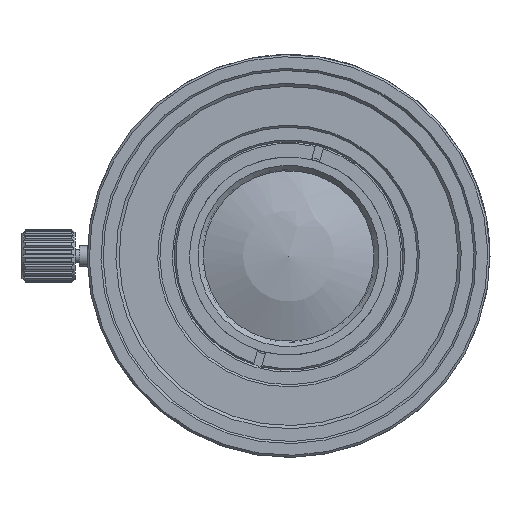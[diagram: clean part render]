
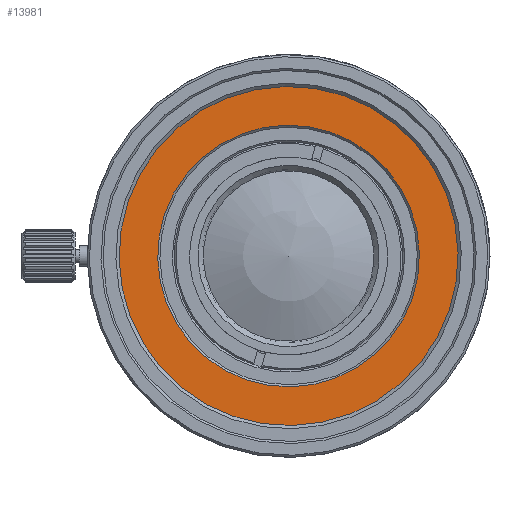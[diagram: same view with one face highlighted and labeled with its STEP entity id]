
A CAD part, left-side view. The second image highlights one B-rep face of the part: STEP entity #13981.
In plain terms, the highlighted planar face has unit normal (-1, 0, 0).
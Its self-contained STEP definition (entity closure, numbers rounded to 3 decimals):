
#1833=PLANE('',#14875);
#2386=CIRCLE('',#14874,12.343);
#2387=CIRCLE('',#14876,15.993);
#3474=ORIENTED_EDGE('',*,*,#6607,.T.);
#3475=ORIENTED_EDGE('',*,*,#6606,.F.);
#6606=EDGE_CURVE('',#8255,#8255,#2386,.T.);
#6607=EDGE_CURVE('',#8256,#8256,#2387,.T.);
#8255=VERTEX_POINT('',#20093);
#8256=VERTEX_POINT('',#20096);
#9941=EDGE_LOOP('',(#3474));
#9942=EDGE_LOOP('',(#3475));
#10816=FACE_BOUND('',#9941,.T.);
#10817=FACE_BOUND('',#9942,.T.);
#13981=ADVANCED_FACE('',(#10816,#10817),#1833,.T.);
#14874=AXIS2_PLACEMENT_3D('',#20092,#16446,#16447);
#14875=AXIS2_PLACEMENT_3D('',#20094,#16448,#16449);
#14876=AXIS2_PLACEMENT_3D('',#20095,#16450,#16451);
#16446=DIRECTION('',(-1.,0.,0.));
#16447=DIRECTION('',(0.,-0.779,-0.627));
#16448=DIRECTION('',(-1.,0.,0.));
#16449=DIRECTION('',(0.,0.779,0.627));
#16450=DIRECTION('',(-1.,0.,0.));
#16451=DIRECTION('',(0.,-0.779,-0.627));
#20092=CARTESIAN_POINT('',(-57.435,0.,0.));
#20093=CARTESIAN_POINT('',(-57.435,-9.62,-7.734));
#20094=CARTESIAN_POINT('',(-57.435,-7.734,9.62));
#20095=CARTESIAN_POINT('',(-57.435,0.,0.));
#20096=CARTESIAN_POINT('',(-57.435,-12.464,-10.021));
